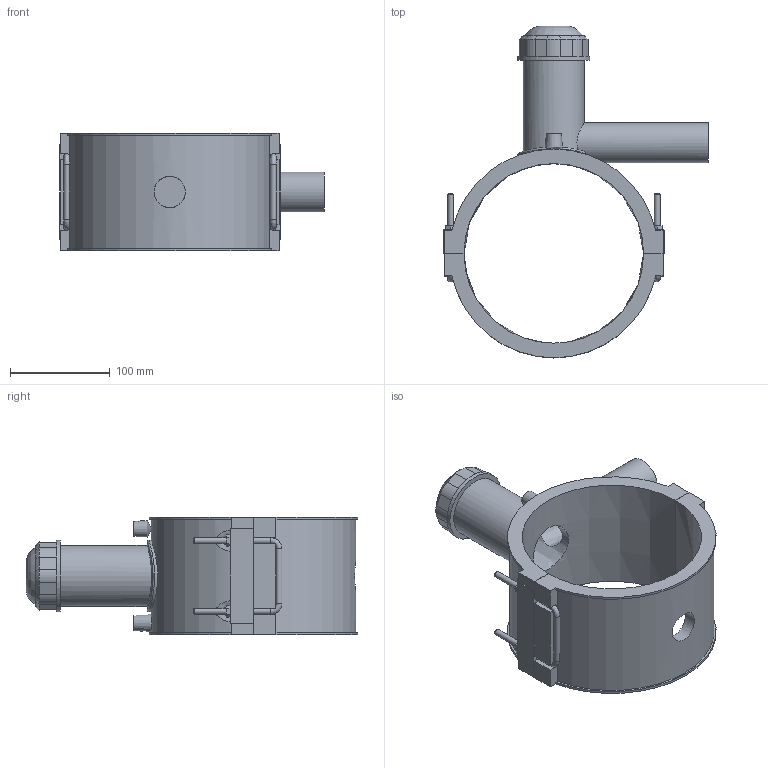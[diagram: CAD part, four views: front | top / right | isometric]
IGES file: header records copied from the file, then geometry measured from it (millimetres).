
Global section: file name: 496304180040.ipt; native system: Autodesk Inventor 2015; preprocessor: unknown; author: KIM; date: 20190124.131111; units: millimetre
Bounding box: 265.5 x 332.65 x 118 mm (x, y, z)
Volume: 1220535.7 mm3; surface area: 258072.3 mm2
Topology: 2 solids, 2 shells, 181 faces, 467 edges, 304 vertices
Faces by surface type: plane 110, cylinder 32, revolution 20, cone 14, bspline 5
Full cylindrical faces by diameter (mm): 4 x2, 6 x10, 40 x1, 61.2 x1, 72 x1
